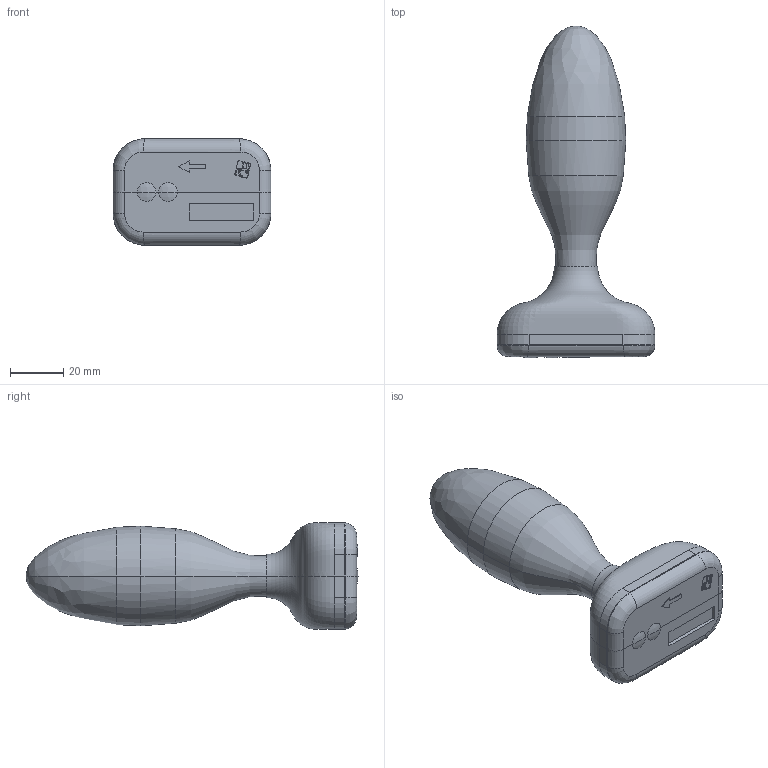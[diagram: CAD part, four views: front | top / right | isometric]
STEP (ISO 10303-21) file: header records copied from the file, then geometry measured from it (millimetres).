
FILE_DESCRIPTION(('FreeCAD Model'),'2;1');
FILE_NAME('Open CASCADE Shape Model','2026-11-21T15:21:19',('Author'),( ''),'Open CASCADE STEP processor 7.8','FreeCAD','Unknown');
FILE_SCHEMA(('AUTOMOTIVE_DESIGN { 1 0 10303 214 1 1 1 1 }'));
Length unit declared in the file: millimetre
Products named in the file (6): ColorMockupAssembly; MockupAssembly0; MockupAssembly1; MockupAssembly2; MockupAssembly3; MockupAssembly4
Assembly tree (5 placements, depth 2):
  ColorMockupAssembly
    MockupAssembly0
    MockupAssembly1
    MockupAssembly2
    MockupAssembly3
    MockupAssembly4
Bounding box: 59.2 x 124.5 x 40 mm (x, y, z)
Volume: 110004 mm3; surface area: 24441.4 mm2
Topology: 5 solids, 5 shells, 278 faces, 749 edges, 492 vertices
Faces by surface type: extrusion 164, plane 61, bspline 22, cylinder 13, revolution 8, cone 6, sphere 4
Full cylindrical faces by diameter (mm): 3 x3, 3.3 x6
Entity records: 34914 total; most frequent: CARTESIAN_POINT 28637, ORIENTED_EDGE 1494, DIRECTION 751, EDGE_CURVE 747, B_SPLINE_CURVE_WITH_KNOTS 558, VERTEX_POINT 492, VECTOR 467, LINE 303
